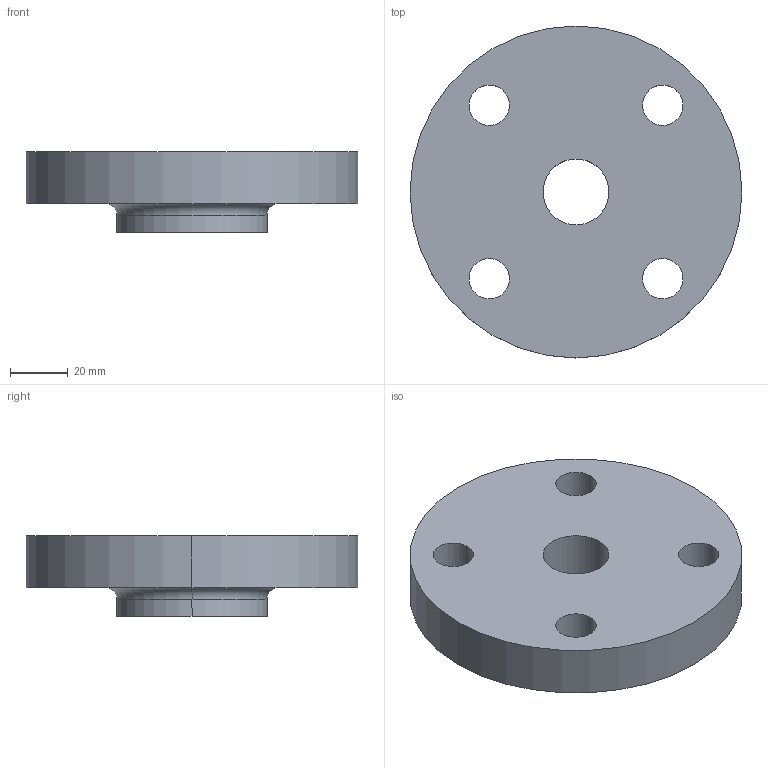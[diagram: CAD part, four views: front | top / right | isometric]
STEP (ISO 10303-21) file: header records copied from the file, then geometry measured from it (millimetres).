
FILE_DESCRIPTION (( 'STEP AP214' ), '1' );
FILE_NAME ('PN40 DN25 Type 13 - Type A Face.STEP', '2018-12-29T20:26:36', ( '' ), ( '' ), 'SwSTEP 2.0', 'SolidWorks 2019', '' );
FILE_SCHEMA (( 'AUTOMOTIVE_DESIGN' ));
Length unit declared in the file: millimetre
Products named in the file (1): PN40 DN25 Type 13 - Type A Face
Bounding box: 115 x 115 x 28 mm (x, y, z)
Volume: 186230.9 mm3; surface area: 31762 mm2
Topology: 1 solids, 1 shells, 19 faces, 46 edges, 30 vertices
Faces by surface type: cylinder 14, plane 3, torus 2
Entity records: 630 total; most frequent: DIRECTION 118, CARTESIAN_POINT 96, ORIENTED_EDGE 92, AXIS2_PLACEMENT_3D 52, EDGE_CURVE 46, CIRCLE 32, VERTEX_POINT 30, EDGE_LOOP 30
